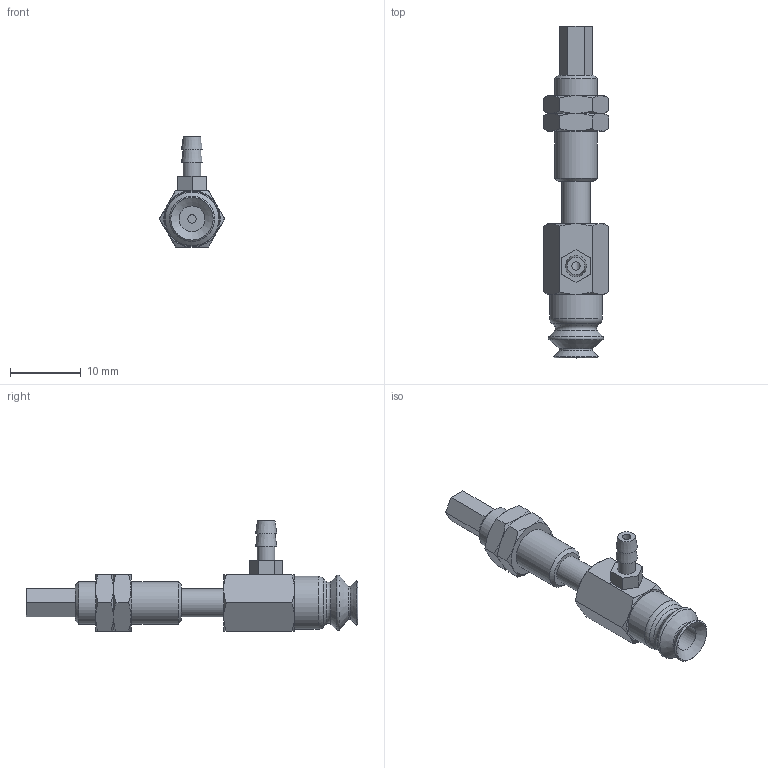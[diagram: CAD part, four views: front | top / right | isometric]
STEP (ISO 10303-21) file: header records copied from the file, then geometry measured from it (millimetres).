
FILE_DESCRIPTION(('STEP AP203'),'1');
FILE_NAME('-T.stp','2025-04-23T07:03:25',(' '),(' '),'Spatial InterOp 3D',' ',' ');
FILE_SCHEMA(('CONFIG_CONTROL_DESIGN'));
Length unit declared in the file: millimetre
Products named in the file (7): BNABPJYS-6-6-※-T; CONNECTOR_S-6-6; NUT-NAPJ-6-6-s; NAPJTS-6-6-FBODY; NAPJTS-6-6-MBODY; BPJG-6-※; T (2)
Assembly tree (7 placements, depth 2):
  BNABPJYS-6-6-※-T
    CONNECTOR_S-6-6
    NUT-NAPJ-6-6-s  x2
    NAPJTS-6-6-FBODY
    NAPJTS-6-6-MBODY
    BPJG-6-※
    T (2)
Bounding box: 9.24 x 47 x 15.6 mm (x, y, z)
Volume: 1580.8 mm3; surface area: 2469.3 mm2
Topology: 7 solids, 7 shells, 152 faces, 324 edges, 195 vertices
Faces by surface type: plane 67, cone 58, cylinder 18, torus 9
Full cylindrical faces by diameter (mm): 1.2 x2, 2.459 x2, 2.5 x1, 3 x2, 3.64 x1, 4 x4, 5.188 x2, 6 x3, 7.5 x1
Entity records: 3712 total; most frequent: CARTESIAN_POINT 833, DIRECTION 534, ORIENTED_EDGE 442, AXIS2_PLACEMENT_3D 230, EDGE_CURVE 221, EDGE_LOOP 194, VERTEX_POINT 157, FACE_OUTER_BOUND 155
